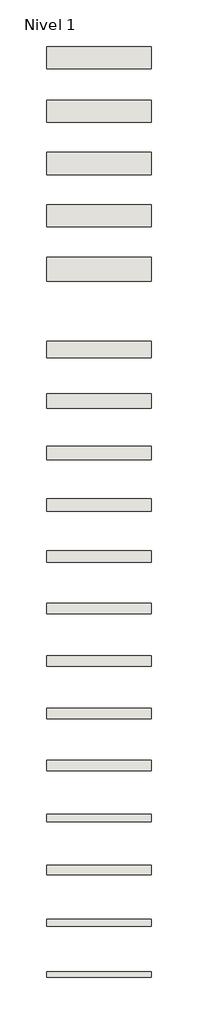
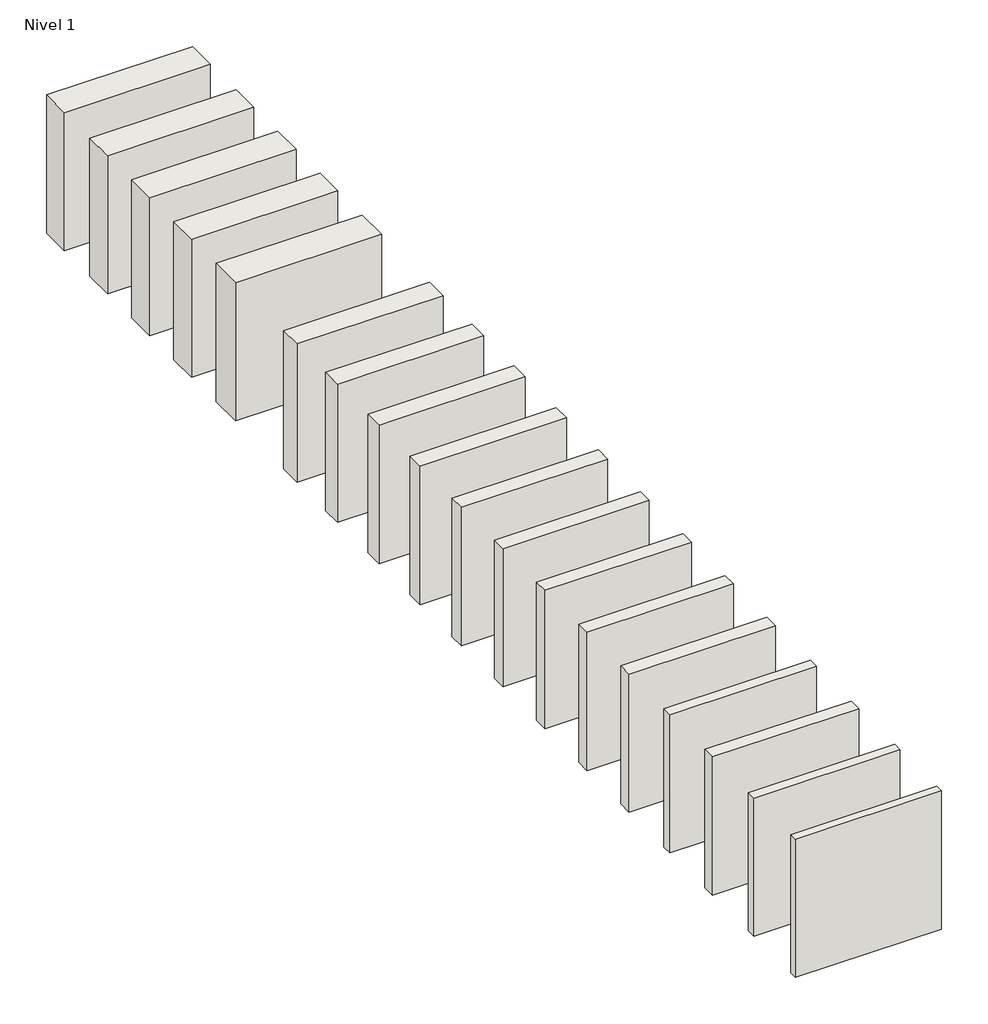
# One storey: 18 walls.
"""IFC4 building model written with IfcOpenShell, lengths in millimetres."""

import ifcopenshell
import ifcopenshell.guid

model = None  # the IFC model being written
_history = None  # IfcOwnerHistory: only IFC2X3 demands one
_inside = {}  # id of a spatial element -> (the spatial element, [elements in it])
_under = {}  # id of a project, library or spatial element -> (it, [spatial elements below it])
_declared = {}  # id of a project -> (the project, [libraries it declares])
_typed = {}  # id of a type object -> (the type object, [elements of that type])
_made_of = {}  # id of a material, layer set ... -> (it, [elements and type objects made of it])


def new_model(schema):
    """Start an empty IFC model of exactly this schema.

    Asked for "IFC4X3", IfcOpenShell would pick the latest addendum, in which some entities
    have other attributes; the version numbers below select the first issue.
    IFC2X3 requires an IfcOwnerHistory on every rooted entity: one is made here for all.
    """
    global model, _history
    if schema == "IFC4X3":
        model = ifcopenshell.file(schema_version=(4, 3, 0, 0))
    else:
        model = ifcopenshell.file(schema=schema)
    _inside.clear()
    _under.clear()
    _declared.clear()
    _typed.clear()
    _made_of.clear()
    _history = None
    if model.schema == "IFC2X3":
        org = make("IfcOrganization", Name="unknown")
        user = make(
            "IfcPersonAndOrganization",
            ThePerson=make("IfcPerson", FamilyName="unknown"),
            TheOrganization=org,
        )
        app = make(
            "IfcApplication",
            ApplicationDeveloper=org,
            Version="unknown",
            ApplicationFullName="unknown",
            ApplicationIdentifier="unknown",
        )
        _history = make(
            "IfcOwnerHistory",
            OwningUser=user,
            OwningApplication=app,
            ChangeAction="ADDED",
            CreationDate=0,
        )
    return model


def make(cls, **values):
    """One entity of the class cls with the attributes given. An attribute that is None is left unset."""
    return model.create_entity(
        cls, **{name: value for name, value in values.items() if value is not None}
    )


def rooted(cls, **values):
    """An entity with a GlobalId (a new one), such as an element, a storey or a relation."""
    return make(cls, GlobalId=ifcopenshell.guid.new(), OwnerHistory=_history, **values)


def si_unit(unit_type, name, prefix=None):
    """IfcSIUnit, for example si_unit("LENGTHUNIT", "METRE", prefix="MILLI")."""
    return make("IfcSIUnit", UnitType=unit_type, Prefix=prefix, Name=name)


def assignment(units):
    """IfcUnitAssignment: the units of a project."""
    return None if units is None else make("IfcUnitAssignment", Units=units)


def point(xyz):
    """IfcCartesianPoint."""
    return None if xyz is None else make("IfcCartesianPoint", Coordinates=xyz)


def direction(xyz):
    """IfcDirection."""
    return None if xyz is None else make("IfcDirection", DirectionRatios=xyz)


def frame(location, z_axis=None, x_axis=None):
    """IfcAxis2Placement3D, a coordinate frame: its origin and axes. An axis left out is left unset."""
    return make(
        "IfcAxis2Placement3D",
        Location=point(location),
        Axis=direction(z_axis),
        RefDirection=direction(x_axis),
    )


def origin():
    """The frame at (0, 0, 0) with its axes left unset."""
    return frame((0.0, 0.0, 0.0))


def origin_with_axes():
    """The frame at (0, 0, 0) with the z axis (0, 0, 1) and the x axis (1, 0, 0) written out."""
    return frame((0.0, 0.0, 0.0), z_axis=(0.0, 0.0, 1.0), x_axis=(1.0, 0.0, 0.0))


def place(relative_to, where):
    """IfcLocalPlacement: puts the frame where relative to a parent placement (None: the world)."""
    return make(
        "IfcLocalPlacement", PlacementRelTo=relative_to, RelativePlacement=where
    )


def context(
    kind, dimensions, precision=None, world=None, true_north=None, identifier=None
):
    """IfcGeometricRepresentationContext, for example the 3D "Model" context."""
    return make(
        "IfcGeometricRepresentationContext",
        ContextIdentifier=identifier,
        ContextType=kind,
        CoordinateSpaceDimension=dimensions,
        Precision=precision,
        WorldCoordinateSystem=world,
        TrueNorth=true_north,
    )


def project(units=None, contexts=None):
    """IfcProject with its units and contexts."""
    return rooted(
        "IfcProject",
        Name="project",
        RepresentationContexts=contexts,
        UnitsInContext=assignment(units),
    )


def spatial(cls, under=None, at=None, **own):
    """A site, building, storey or space (cls), placed at a placement, below another one or the project."""
    s = rooted(cls, ObjectPlacement=at, **own)
    if under is not None:
        _under.setdefault(under.id(), (under, []))[1].append(s)
    return s


def polyline(points):
    """IfcPolyline through the points."""
    return make("IfcPolyline", Points=[point(p) for p in points])


def outline(outer, holes=None, kind="AREA"):
    """IfcArbitraryClosedProfileDef: a profile drawn as a closed curve; with holes, ...WithVoids."""
    if holes is None:
        return make("IfcArbitraryClosedProfileDef", ProfileType=kind, OuterCurve=outer)
    return make(
        "IfcArbitraryProfileDefWithVoids",
        ProfileType=kind,
        OuterCurve=outer,
        InnerCurves=holes,
    )


def extrude(swept, where, along, depth):
    """IfcExtrudedAreaSolid: the profile swept, set in the frame where, extruded along a direction by depth."""
    return make(
        "IfcExtrudedAreaSolid",
        SweptArea=swept,
        Position=where,
        ExtrudedDirection=direction(along),
        Depth=depth,
    )


def shape(context_of_items, identifier, shape_type, items):
    """IfcShapeRepresentation: the items that make up one representation, for example the "Body"."""
    return make(
        "IfcShapeRepresentation",
        ContextOfItems=context_of_items,
        RepresentationIdentifier=identifier,
        RepresentationType=shape_type,
        Items=items,
    )


def made_of(thing, what):
    """Note that an element or type object is made of a material, layer set ...; save() writes the relation."""
    if what is not None:
        _made_of.setdefault(what.id(), (what, []))[1].append(thing)
    return thing


def element(
    cls,
    number,
    at=None,
    inside=None,
    cuts=None,
    type_object=None,
    material=None,
    context=None,
    identifier="Body",
    shape_type=None,
    held_by="IfcProductDefinitionShape",
    body=None,
    shapes=None,
    **own,
):
    """One element of the class cls, such as IfcWall. Its Tag is "e" and its number.

    at: its placement. inside: the storey or other place that contains it. cuts: it is an
    opening in that element (IfcRelVoidsElement). A single representation is given by context,
    identifier, shape_type and body (its items); several are given by shapes. held_by: the class
    of the entity that holds the representations. save() writes the other relations.
    """
    e = rooted(cls, Tag="e%d" % number, ObjectPlacement=at, **own)
    if body is not None:
        shapes = [shape(context, identifier, shape_type, body)]
    if shapes is not None:
        e.Representation = make(held_by, Representations=shapes)
    if inside is not None:
        _inside.setdefault(inside.id(), (inside, []))[1].append(e)
    if cuts is not None:
        rooted(
            "IfcRelVoidsElement", RelatingBuildingElement=cuts, RelatedOpeningElement=e
        )
    if type_object is not None:
        _typed.setdefault(type_object.id(), (type_object, []))[1].append(e)
    return made_of(e, material)


def aggregate(whole, parts):
    """IfcRelAggregates: a whole, such as a stair, and the parts it consists of."""
    return rooted("IfcRelAggregates", RelatingObject=whole, RelatedObjects=parts)


def save(model, path):
    """Write the relations noted so far, then the file.

    IfcRelAggregates (storeys below a building ...), IfcRelContainedInSpatialStructure (elements
    in a storey), IfcRelDefinesByType, IfcRelAssociatesMaterial and IfcRelDeclares: one each for
    every whole, place, type object, material and project.
    """
    for whole, parts in _under.values():
        aggregate(whole, parts)
    for where, things in _inside.values():
        rooted(
            "IfcRelContainedInSpatialStructure",
            RelatedElements=things,
            RelatingStructure=where,
        )
    for kind, things in _typed.values():
        rooted("IfcRelDefinesByType", RelatedObjects=things, RelatingType=kind)
    for what, things in _made_of.values():
        rooted("IfcRelAssociatesMaterial", RelatedObjects=things, RelatingMaterial=what)
    for by, libraries in _declared.values():
        rooted("IfcRelDeclares", RelatingContext=by, RelatedDefinitions=libraries)
    model.write(path)


model = new_model("IFC4")

# Units and contexts
model_context = context("Model", 3, world=origin())
ifc_project = project(units=[si_unit("LENGTHUNIT", "METRE", prefix="MILLI")], contexts=[model_context])

# Site, building, storey
site = spatial("IfcSite", under=ifc_project)
building = spatial("IfcBuilding", under=site)
storey = spatial("IfcBuildingStorey", under=building, Name="Nivel 1", Elevation=0.0)

# Walls
placement = place(None, origin())
element("IfcWall", 1, ObjectType="Megabrick 4. Yeso una cara", at=placement, inside=storey, context=model_context, shape_type="SweptSolid", body=[
    extrude(outline(polyline([(-1966.2152419, 155.6415145), (-2966.2152419, 155.6415145), (-2966.2152419, 210.6415145), (-1966.2152419, 210.6415145), (-1966.2152419, 155.6415145)])), origin_with_axes(), (0.0, 0.0, 1.0), 1000.0),
])
element("IfcWall", 2, ObjectType="Megabrick 5. Yeso una cara", at=placement, inside=storey, context=model_context, shape_type="SweptSolid", body=[
    extrude(outline(polyline([(-1966.2152419, 645.6415145), (-2966.2152419, 645.6415145), (-2966.2152419, 710.6415145), (-1966.2152419, 710.6415145), (-1966.2152419, 645.6415145)])), origin_with_axes(), (0.0, 0.0, 1.0), 1000.0),
])
element("IfcWall", 3, ObjectType="Megabrick 6. Yeso ambas caras", at=placement, inside=storey, context=model_context, shape_type="SweptSolid", body=[
    extrude(outline(polyline([(-1966.2152419, 1135.6415145), (-2966.2152419, 1135.6415145), (-2966.2152419, 1225.6415145), (-1966.2152419, 1225.6415145), (-1966.2152419, 1135.6415145)])), origin_with_axes(), (0.0, 0.0, 1.0), 1000.0),
])
element("IfcWall", 4, ObjectType="Megabrick 7 Liso", at=placement, inside=storey, context=model_context, shape_type="SweptSolid", body=[
    extrude(outline(polyline([(-1966.2152419, 1640.6415145), (-2966.2152419, 1640.6415145), (-2966.2152419, 1710.6415145), (-1966.2152419, 1710.6415145), (-1966.2152419, 1640.6415145)])), origin_with_axes(), (0.0, 0.0, 1.0), 1000.0),
])
element("IfcWall", 5, ObjectType="Megabrick 7 Plus. Yeso ambas caras", at=placement, inside=storey, context=model_context, shape_type="SweptSolid", body=[
    extrude(outline(polyline([(-1966.2152419, 2124.4235397), (-2966.2152419, 2124.4235397), (-2966.2152419, 2224.4235397), (-1966.2152419, 2224.4235397), (-1966.2152419, 2124.4235397)])), origin_with_axes(), (0.0, 0.0, 1.0), 1000.0),
])
element("IfcWall", 6, ObjectType="Megabrick 7 Tabique. Yeso ambas caras", at=placement, inside=storey, context=model_context, shape_type="SweptSolid", body=[
    extrude(outline(polyline([(-1966.2152419, 2623.6844873), (-2966.2152419, 2623.6844873), (-2966.2152419, 2721.6844873), (-1966.2152419, 2721.6844873), (-1966.2152419, 2623.6844873)])), origin_with_axes(), (0.0, 0.0, 1.0), 1000.0),
])
element("IfcWall", 7, ObjectType="Megabrick Triple Acústico 7. Yeso ambas caras", at=placement, inside=storey, context=model_context, shape_type="SweptSolid", body=[
    extrude(outline(polyline([(-1966.2152419, 3121.6844873), (-2966.2152419, 3121.6844873), (-2966.2152419, 3221.6844873), (-1966.2152419, 3221.6844873), (-1966.2152419, 3121.6844873)])), origin_with_axes(), (0.0, 0.0, 1.0), 1000.0),
])
element("IfcWall", 8, ObjectType="Megabrick 7. Yeso ambas caras", at=placement, inside=storey, context=model_context, shape_type="SweptSolid", body=[
    extrude(outline(polyline([(-1966.2152419, 3621.6844873), (-2966.2152419, 3621.6844873), (-2966.2152419, 3721.6844873), (-1966.2152419, 3721.6844873), (-1966.2152419, 3621.6844873)])), origin_with_axes(), (0.0, 0.0, 1.0), 1000.0),
])
element("IfcWall", 9, ObjectType="Megabrick 8. Yeso ambas caras", at=placement, inside=storey, context=model_context, shape_type="SweptSolid", body=[
    extrude(outline(polyline([(-1966.2152419, 4111.6844873), (-2966.2152419, 4111.6844873), (-2966.2152419, 4221.6844873), (-1966.2152419, 4221.6844873), (-1966.2152419, 4111.6844873)])), origin_with_axes(), (0.0, 0.0, 1.0), 1000.0),
])
element("IfcWall", 10, ObjectType="Megabrick 9. Yeso ambas caras", at=placement, inside=storey, context=model_context, shape_type="SweptSolid", body=[
    extrude(outline(polyline([(-1966.2152419, 4601.6844873), (-2966.2152419, 4601.6844873), (-2966.2152419, 4721.6844873), (-1966.2152419, 4721.6844873), (-1966.2152419, 4601.6844873)])), origin_with_axes(), (0.0, 0.0, 1.0), 1000.0),
])
element("IfcWall", 11, ObjectType="Megabrick 10. Yeso ambas caras", at=placement, inside=storey, context=model_context, shape_type="SweptSolid", body=[
    extrude(outline(polyline([(-1966.2152419, 5091.6844873), (-2966.2152419, 5091.6844873), (-2966.2152419, 5221.6844873), (-1966.2152419, 5221.6844873), (-1966.2152419, 5091.6844873)])), origin_with_axes(), (0.0, 0.0, 1.0), 1000.0),
])
element("IfcWall", 12, ObjectType="Megabrick Triplex 11 cm. Yeso ambas caras", at=placement, inside=storey, context=model_context, shape_type="SweptSolid", body=[
    extrude(outline(polyline([(-1966.2152419, 5581.6844873), (-2966.2152419, 5581.6844873), (-2966.2152419, 5721.6844873), (-1966.2152419, 5721.6844873), (-1966.2152419, 5581.6844873)])), origin_with_axes(), (0.0, 0.0, 1.0), 1000.0),
])
element("IfcWall", 13, ObjectType="Megabrick 13 Yeso ambas caras 2", at=placement, inside=storey, context=model_context, shape_type="SweptSolid", body=[
    extrude(outline(polyline([(-1966.2152419, 6061.6844873), (-2966.2152419, 6061.6844873), (-2966.2152419, 6221.6844873), (-1966.2152419, 6221.6844873), (-1966.2152419, 6061.6844873)])), origin_with_axes(), (0.0, 0.0, 1.0), 1000.0),
])
element("IfcWall", 14, ObjectType="Doble hoja Megabrick Triplex 11 cm + lana mineral + Megabrick 5. Yeso ambas caras", at=placement, inside=storey, context=model_context, shape_type="SweptSolid", body=[
    extrude(outline(polyline([(-1966.2152419, 6791.6844873), (-2966.2152419, 6791.6844873), (-2966.2152419, 7021.6844873), (-1966.2152419, 7021.6844873), (-1966.2152419, 6791.6844873)])), origin_with_axes(), (0.0, 0.0, 1.0), 1000.0),
])
element("IfcWall", 15, ObjectType="Doble hoja Megabrick Triple Acústico 7 + lana mineral + Megabrick 6. Yeso ambas caras", at=placement, inside=storey, context=model_context, shape_type="SweptSolid", body=[
    extrude(outline(polyline([(-1966.2152419, 7311.6844873), (-2966.2152419, 7311.6844873), (-2966.2152419, 7521.6844873), (-1966.2152419, 7521.6844873), (-1966.2152419, 7311.6844873)])), origin_with_axes(), (0.0, 0.0, 1.0), 1000.0),
])
element("IfcWall", 16, ObjectType="Doble hoja Megabrick Triple Acústico 7 + lana mineral + Megabrick 7. Yeso ambas caras", at=placement, inside=storey, context=model_context, shape_type="SweptSolid", body=[
    extrude(outline(polyline([(-1966.2152419, 7806.6844873), (-2966.2152419, 7806.6844873), (-2966.2152419, 8021.6844873), (-1966.2152419, 8021.6844873), (-1966.2152419, 7806.6844873)])), origin_with_axes(), (0.0, 0.0, 1.0), 1000.0),
])
element("IfcWall", 17, ObjectType="Doble hoja Megabrick 7 + enfoscado mortero + lana mineral + Megabrick 7. Yeso ambas caras", at=placement, inside=storey, context=model_context, shape_type="SweptSolid", body=[
    extrude(outline(polyline([(-1966.2152419, 8306.6844873), (-2966.2152419, 8306.6844873), (-2966.2152419, 8516.6844873), (-1966.2152419, 8516.6844873), (-1966.2152419, 8306.6844873)])), origin_with_axes(), (0.0, 0.0, 1.0), 1000.0),
])
element("IfcWall", 18, ObjectType="Doble hoja Megabrick 7 + lana mineral + Megabrick 7. Yeso ambas caras", at=placement, inside=storey, context=model_context, shape_type="SweptSolid", body=[
    extrude(outline(polyline([(-1966.2152419, 8820.8319856), (-2966.2152419, 8820.8319856), (-2966.2152419, 9030.8319856), (-1966.2152419, 9030.8319856), (-1966.2152419, 8820.8319856)])), origin_with_axes(), (0.0, 0.0, 1.0), 1000.0),
])

save(model, "model.ifc")
